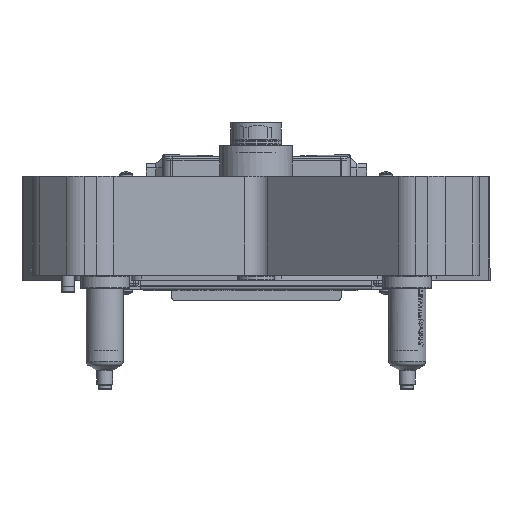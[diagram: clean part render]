
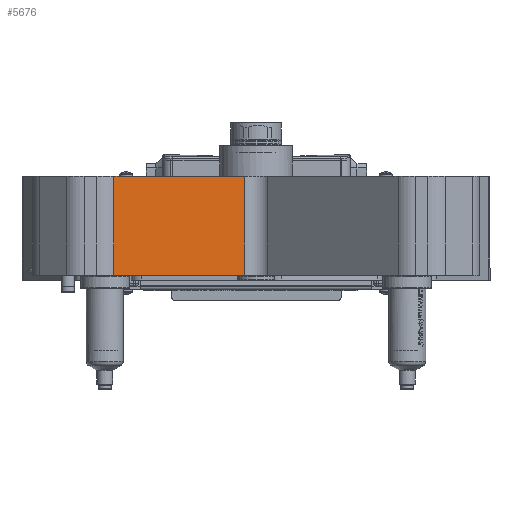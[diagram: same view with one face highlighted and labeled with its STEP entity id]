
A CAD part, front view. The second image highlights one B-rep face of the part: STEP entity #5676.
In plain terms, the highlighted planar face has unit normal (0.707, -0.707, 0).
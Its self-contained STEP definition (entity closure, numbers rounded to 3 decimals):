
#5676=ADVANCED_FACE('',(#14327),#14328,.F.);
#14327=FACE_OUTER_BOUND('',#27683,.T.);
#14328=PLANE('',#27684);
#27683=EDGE_LOOP('',(#44711,#44712,#44713,#44714));
#27684=AXIS2_PLACEMENT_3D('',#44715,#44716,#44717);
#44711=ORIENTED_EDGE('',*,*,#80319,.T.);
#44712=ORIENTED_EDGE('',*,*,#80320,.F.);
#44713=ORIENTED_EDGE('',*,*,#80321,.F.);
#44714=ORIENTED_EDGE('',*,*,#80316,.T.);
#44715=CARTESIAN_POINT('',(-87.544,-133.506,61.0));
#44716=DIRECTION('',(-0.707,0.707,0.0));
#44717=DIRECTION('',(-0.707,-0.707,0.0));
#80316=EDGE_CURVE('',#94213,#94211,#94214,.T.);
#80319=EDGE_CURVE('',#94211,#94217,#94218,.T.);
#80320=EDGE_CURVE('',#94219,#94217,#94220,.T.);
#80321=EDGE_CURVE('',#94213,#94219,#94221,.T.);
#94211=VERTEX_POINT('',#114806);
#94213=VERTEX_POINT('',#114808);
#94214=LINE('',#114809,#114810);
#94217=VERTEX_POINT('',#114813);
#94218=LINE('',#114814,#114815);
#94219=VERTEX_POINT('',#114816);
#94220=LINE('',#114817,#114818);
#94221=LINE('',#114819,#114820);
#114806=CARTESIAN_POINT('',(-87.544,-133.506,0.0));
#114808=CARTESIAN_POINT('',(-87.544,-133.506,61.0));
#114809=CARTESIAN_POINT('',(-87.544,-133.506,61.0));
#114810=VECTOR('',#148597,1.0);
#114813=CARTESIAN_POINT('',(-7.071,-53.033,0.0));
#114814=CARTESIAN_POINT('',(-87.544,-133.506,0.0));
#114815=VECTOR('',#148601,1.0);
#114816=CARTESIAN_POINT('',(-7.071,-53.033,61.0));
#114817=CARTESIAN_POINT('',(-7.071,-53.033,61.0));
#114818=VECTOR('',#148602,1.0);
#114819=CARTESIAN_POINT('',(-87.544,-133.506,61.0));
#114820=VECTOR('',#148603,1.0);
#148597=DIRECTION('',(0.0,0.0,-1.0));
#148601=DIRECTION('',(0.707,0.707,0.0));
#148602=DIRECTION('',(0.0,0.0,-1.0));
#148603=DIRECTION('',(0.707,0.707,0.0));
